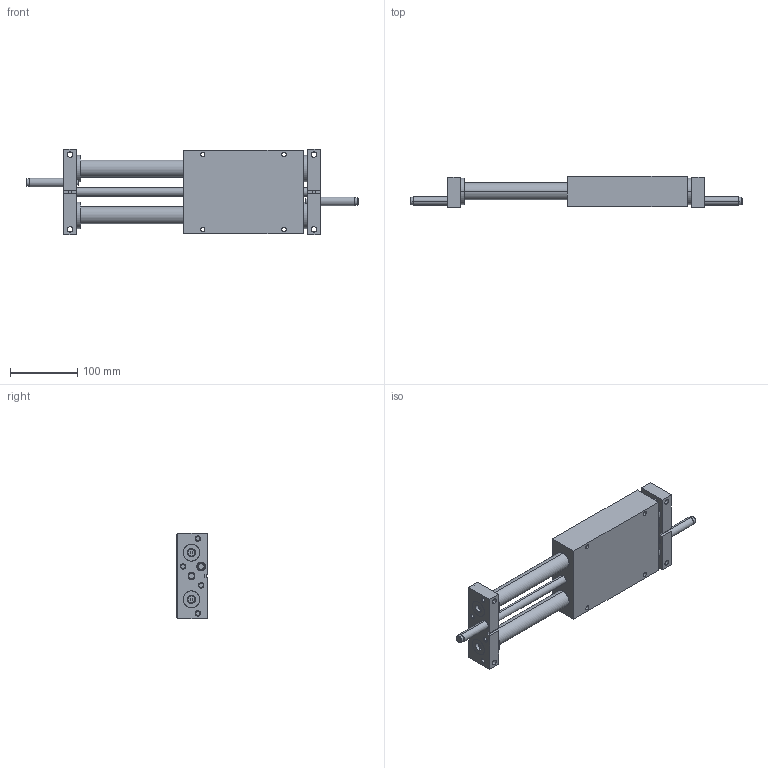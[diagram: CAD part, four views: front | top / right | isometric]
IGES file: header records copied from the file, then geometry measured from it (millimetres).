
Start section: SolidWorks IGES file using analytic representation for surfaces
Global section: file name: C:\Users\jmkuhnes\Pictures\My Transfers\AGS\AGS-6\AGS-6 in IN.IGS; native system: SolidWorks 2013; preprocessor: SolidWorks 2013; author: jmkuhnes; date: 141106.134253; units: inch
Bounding box: 492.76 x 46.05 x 127 mm (x, y, z)
Surface area: 252419.8 mm2 (no closed solid volume)
Topology: 0 solids, 0 shells, 326 faces, 6300 edges, 6292 vertices
Faces by surface type: revolution 220, bspline 106
